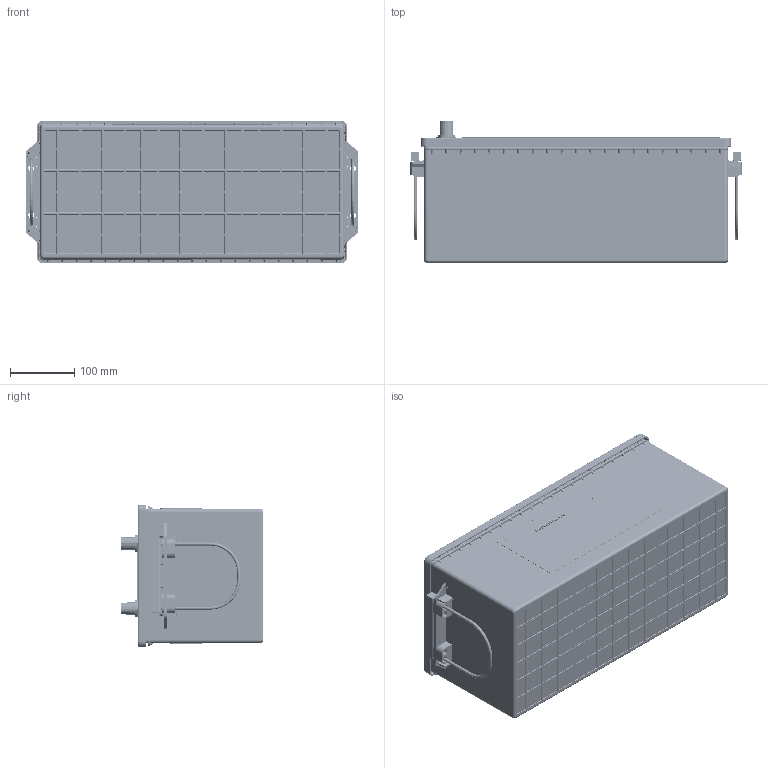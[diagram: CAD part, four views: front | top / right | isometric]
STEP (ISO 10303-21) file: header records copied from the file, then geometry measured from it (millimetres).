
FILE_DESCRIPTION (( 'STEP AP203' ), '1' );
FILE_NAME ('ODP-AGM4D.STEP', '2022-01-24T15:13:21', ( '' ), ( '' ), 'SwSTEP 2.0', 'SolidWorks 2019', '' );
FILE_SCHEMA (( 'CONFIG_CONTROL_DESIGN' ));
Products named in the file (1): ODP-AGM4D
Bounding box: 517.69 x 220.99 x 222.5 mm (x, y, z)
Volume: 2674600.3 mm3; surface area: 1825358.1 mm2
Topology: 29 solids, 29 shells, 8359 faces, 21985 edges, 13948 vertices
Faces by surface type: plane 4020, cylinder 1960, bspline 1365, torus 508, cone 370, sphere 136
Full cylindrical faces by diameter (mm): 4.8 x1, 5.8 x3, 5.9 x2, 9 x8, 18 x2, 18.469 x6, 26 x2
Entity records: 359782 total; most frequent: CARTESIAN_POINT 171443, ORIENTED_EDGE 43444, DIRECTION 31720, EDGE_CURVE 21722, VERTEX_POINT 13905, VECTOR 11290, LINE 11290, AXIS2_PLACEMENT_3D 10215
